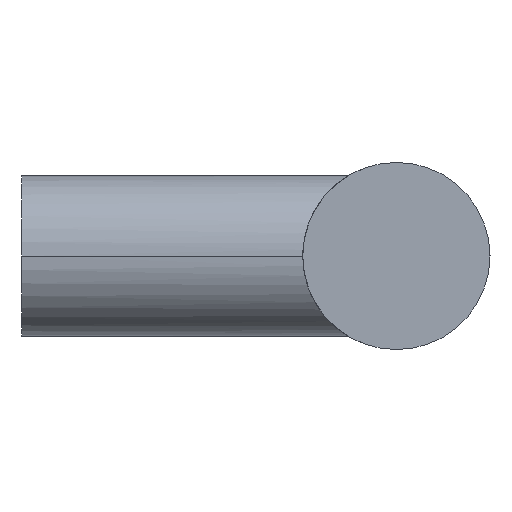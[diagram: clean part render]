
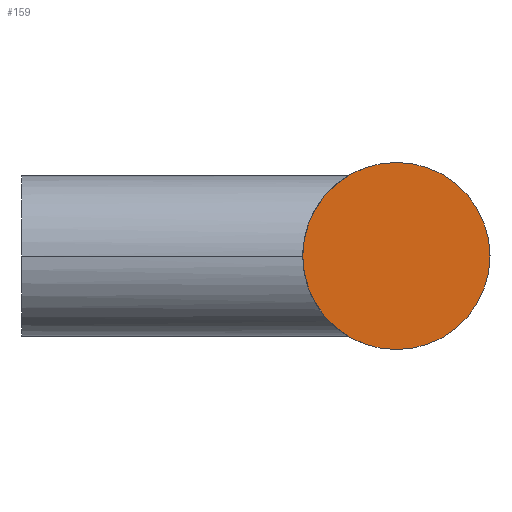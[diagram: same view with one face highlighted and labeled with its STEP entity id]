
A CAD part, left-side view. The second image highlights one B-rep face of the part: STEP entity #159.
In plain terms, the highlighted planar face has unit normal (-1, 0, 0).
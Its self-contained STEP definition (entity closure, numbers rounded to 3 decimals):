
#125 = EDGE_CURVE( '', #139, #169, #284, .T. );
#139 = VERTEX_POINT( '', #298 );
#159 = ADVANCED_FACE( '', ( #325 ), #326, .F. );
#169 = VERTEX_POINT( '', #336 );
#219 = EDGE_CURVE( '', #169, #139, #396, .T. );
#284 = CIRCLE( '', #546, 7. );
#298 = CARTESIAN_POINT( '', ( -30., -28., 7. ) );
#325 = FACE_OUTER_BOUND( '', #628, .T. );
#326 = PLANE( '', #629 );
#336 = CARTESIAN_POINT( '', ( -30., -28., -7. ) );
#396 = CIRCLE( '', #732, 7. );
#546 = AXIS2_PLACEMENT_3D( '', #777, #778, #779 );
#628 = EDGE_LOOP( '', ( #837, #838 ) );
#629 = AXIS2_PLACEMENT_3D( '', #839, #840, #841 );
#732 = AXIS2_PLACEMENT_3D( '', #928, #929, #930 );
#777 = CARTESIAN_POINT( '', ( -30., -28., 0. ) );
#778 = DIRECTION( '', ( 1., 0., 0. ) );
#779 = DIRECTION( '', ( 0., 0., -1. ) );
#837 = ORIENTED_EDGE( '', *, *, #219, .F. );
#838 = ORIENTED_EDGE( '', *, *, #125, .F. );
#839 = CARTESIAN_POINT( '', ( -30., 0., 0. ) );
#840 = DIRECTION( '', ( 1., 0., 0. ) );
#841 = DIRECTION( '', ( 0., 0., -1. ) );
#928 = CARTESIAN_POINT( '', ( -30., -28., 0. ) );
#929 = DIRECTION( '', ( 1., 0., 0. ) );
#930 = DIRECTION( '', ( 0., 0., -1. ) );
